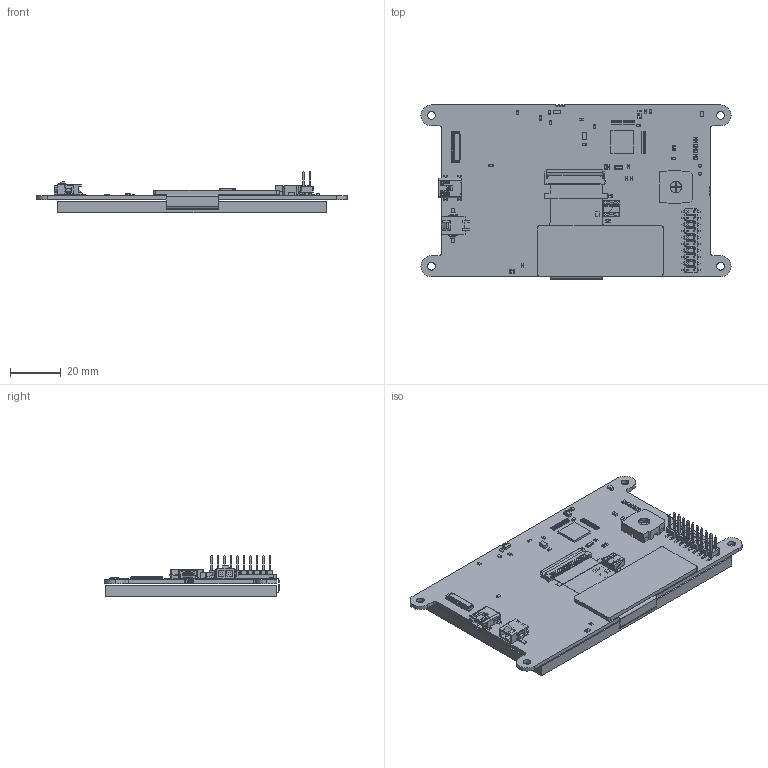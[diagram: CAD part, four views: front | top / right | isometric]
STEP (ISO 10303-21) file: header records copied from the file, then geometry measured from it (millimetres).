
FILE_DESCRIPTION (( 'STEP AP214' ), '1' );
FILE_NAME ('EVE3x-43A-IPS-800480A R1.0.3.STEP', '2024-06-21T17:12:09', ( '' ), ( '' ), 'SwSTEP 2.0', 'SolidWorks 2021', '' );
FILE_SCHEMA (( 'AUTOMOTIVE_DESIGN' ));
Length unit declared in the file: millimetre
Products named in the file (3): MOP-TFT800480A-43A-IPS; EVE3x-43A-IPS-800480A R1.0.3; EVE3x43A R1.0.3
Assembly tree (2 placements, depth 2):
  EVE3x-43A-IPS-800480A R1.0.3
    MOP-TFT800480A-43A-IPS
    EVE3x43A R1.0.3
Bounding box: 121.7 x 68.35 x 16.34 mm (x, y, z)
Volume: 33506.3 mm3; surface area: 39536.4 mm2
Topology: 3 solids, 193 shells, 7297 faces, 19227 edges, 12068 vertices
Faces by surface type: plane 5377, cylinder 1000, bspline 752, sphere 152, cone 16
Entity records: 362421 total; most frequent: CARTESIAN_POINT 111295, ORIENTED_EDGE 37598, DIRECTION 30170, EDGE_CURVE 19071, LINE 13428, VECTOR 13428, VERTEX_POINT 12068, AXIS2_PLACEMENT_3D 8371
